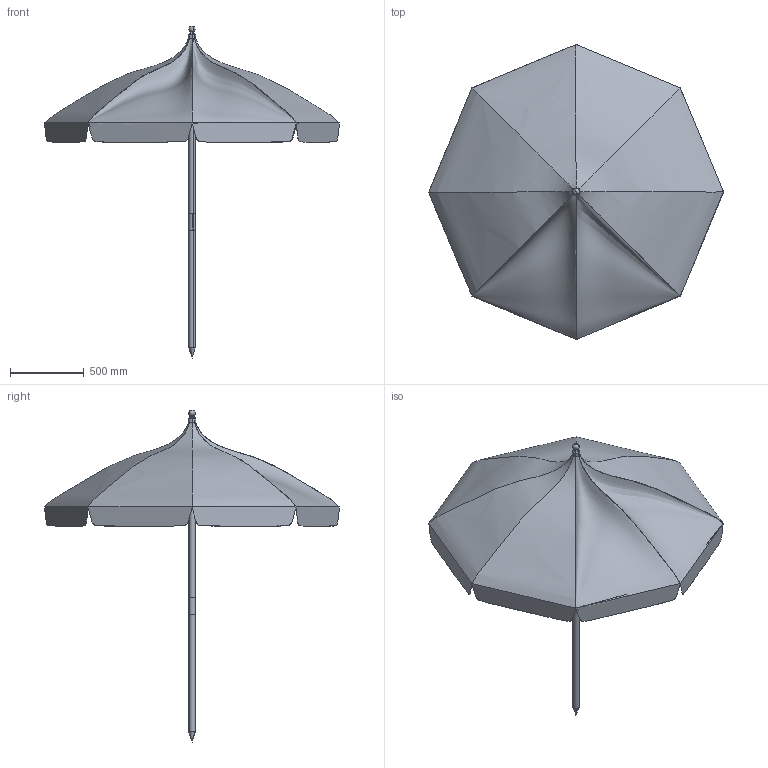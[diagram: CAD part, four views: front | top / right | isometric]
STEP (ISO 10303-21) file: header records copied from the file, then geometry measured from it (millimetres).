
FILE_DESCRIPTION(/* description */ (''),/* implementation_level */ '2;1');
FILE_NAME(/* name */ 'Lull Umbrella_3D',/* time_stamp */ '2024-09-24T13:00:29+02:00',/* author */ (''),/* organization */ (''),/* preprocessor_version */ 'ST-DEVELOPER v16.5',/* originating_system */ 'Rhino 7.37',/* authorisation */ '');
FILE_SCHEMA (('CONFIG_CONTROL_DESIGN'));
Length unit declared in the file: millimetre
Products named in the file (1): Document
Bounding box: 2003.56 x 2003.53 x 2255.15 mm (x, y, z)
Volume: 3622776.3 mm3; surface area: 4558169.2 mm2
Topology: 5 solids, 17 shells, 35 faces, 95 edges, 60 vertices
Faces by surface type: bspline 22, plane 7, cylinder 6
Entity records: 229282 total; most frequent: CARTESIAN_POINT 228708, ORIENTED_EDGE 105, EDGE_CURVE 74, VERTEX_POINT 60, B_SPLINE_CURVE_WITH_KNOTS 46, ADVANCED_FACE 35, FACE_OUTER_BOUND 35, EDGE_LOOP 35
